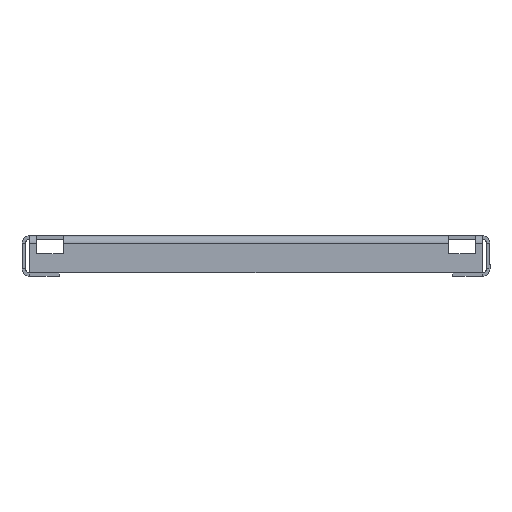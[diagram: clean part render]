
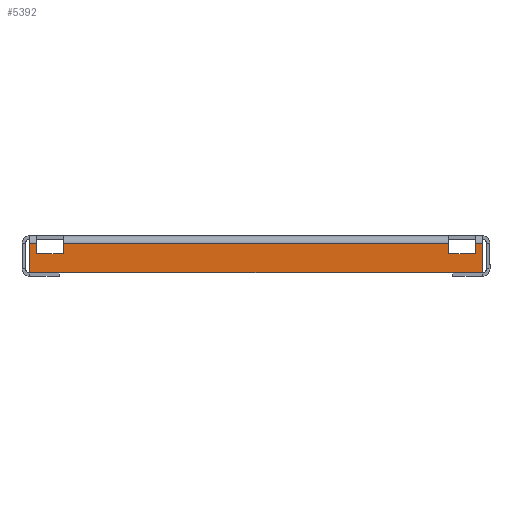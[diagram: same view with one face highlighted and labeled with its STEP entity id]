
A CAD part, front view. The second image highlights one B-rep face of the part: STEP entity #5392.
In plain terms, the highlighted planar face has unit normal (0, -1, 0) as drawn and (1, 0, 0) by its records, which use the part's own axes.
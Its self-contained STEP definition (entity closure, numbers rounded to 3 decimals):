
#67 = EDGE_CURVE ( 'NONE', #3493, #3189, #2432, .T. ) ;
#87 = LINE ( 'NONE', #4906, #5049 ) ;
#98 = LINE ( 'NONE', #4283, #5055 ) ;
#189 = CARTESIAN_POINT ( 'NONE',  ( 556.755, -157.685, -23.317 ) ) ;
#264 = EDGE_CURVE ( 'NONE', #2305, #3568, #87, .T. ) ;
#312 = CARTESIAN_POINT ( 'NONE',  ( 556.755, 134.317, 2.464 ) ) ;
#319 = EDGE_CURVE ( 'NONE', #4222, #2305, #2352, .T. ) ;
#336 = EDGE_CURVE ( 'NONE', #4490, #3189, #3476, .T. ) ;
#339 = ORIENTED_EDGE ( 'NONE', *, *, #264, .F. ) ;
#356 = EDGE_CURVE ( 'NONE', #4728, #3493, #5706, .T. ) ;
#495 = CARTESIAN_POINT ( 'NONE',  ( 556.755, 134.317, -10.236 ) ) ;
#673 = DIRECTION ( 'NONE',  ( 0., 0., 1. ) ) ;
#674 = ORIENTED_EDGE ( 'NONE', *, *, #336, .F. ) ;
#692 = DIRECTION ( 'NONE',  ( 0., 1., 0. ) ) ;
#827 = CARTESIAN_POINT ( 'NONE',  ( 556.755, -157.685, 0. ) ) ;
#853 = ORIENTED_EDGE ( 'NONE', *, *, #356, .T. ) ;
#920 = EDGE_CURVE ( 'NONE', #3617, #5789, #2021, .T. ) ;
#973 = AXIS2_PLACEMENT_3D ( 'NONE', #4707, #5159, #2311 ) ;
#1020 = CARTESIAN_POINT ( 'NONE',  ( 556.755, 157.685, -2.794 ) ) ;
#1242 = VECTOR ( 'NONE', #1649, 1000. ) ;
#1246 = EDGE_CURVE ( 'NONE', #5491, #5176, #3538, .T. ) ;
#1277 = ORIENTED_EDGE ( 'NONE', *, *, #4502, .T. ) ;
#1329 = ORIENTED_EDGE ( 'NONE', *, *, #319, .F. ) ;
#1366 = PLANE ( 'NONE',  #973 ) ;
#1412 = ORIENTED_EDGE ( 'NONE', *, *, #920, .F. ) ;
#1523 = VECTOR ( 'NONE', #4149, 1000. ) ;
#1545 = VECTOR ( 'NONE', #3080, 1000. ) ;
#1649 = DIRECTION ( 'NONE',  ( 0., 1., 0. ) ) ;
#1731 = DIRECTION ( 'NONE',  ( 0., 0., 1. ) ) ;
#1953 = DIRECTION ( 'NONE',  ( 0., 0., -1. ) ) ;
#2021 = LINE ( 'NONE', #5962, #4106 ) ;
#2096 = CARTESIAN_POINT ( 'NONE',  ( 556.755, -152.605, -10.236 ) ) ;
#2135 = FACE_OUTER_BOUND ( 'NONE', #5525, .T. ) ;
#2305 = VERTEX_POINT ( 'NONE', #4848 ) ;
#2311 = DIRECTION ( 'NONE',  ( 0., -1., 0. ) ) ;
#2352 = LINE ( 'NONE', #4000, #4753 ) ;
#2432 = LINE ( 'NONE', #4595, #2591 ) ;
#2457 = ORIENTED_EDGE ( 'NONE', *, *, #3470, .F. ) ;
#2591 = VECTOR ( 'NONE', #1731, 1000. ) ;
#2651 = LINE ( 'NONE', #4980, #1242 ) ;
#2732 = DIRECTION ( 'NONE',  ( 0., 0., -1. ) ) ;
#2835 = VERTEX_POINT ( 'NONE', #3011 ) ;
#3011 = CARTESIAN_POINT ( 'NONE',  ( 556.755, -157.685, -2.794 ) ) ;
#3080 = DIRECTION ( 'NONE',  ( 0., 1., 0. ) ) ;
#3123 = EDGE_CURVE ( 'NONE', #5176, #4490, #98, .T. ) ;
#3189 = VERTEX_POINT ( 'NONE', #1020 ) ;
#3278 = DIRECTION ( 'NONE',  ( 0., 1., 0. ) ) ;
#3470 = EDGE_CURVE ( 'NONE', #2835, #3617, #2651, .T. ) ;
#3476 = LINE ( 'NONE', #5920, #5860 ) ;
#3493 = VERTEX_POINT ( 'NONE', #5000 ) ;
#3538 = LINE ( 'NONE', #6122, #6072 ) ;
#3568 = VERTEX_POINT ( 'NONE', #6023 ) ;
#3617 = VERTEX_POINT ( 'NONE', #3670 ) ;
#3670 = CARTESIAN_POINT ( 'NONE',  ( 556.755, -152.605, -2.794 ) ) ;
#3764 = VECTOR ( 'NONE', #2732, 1000. ) ;
#3860 = ORIENTED_EDGE ( 'NONE', *, *, #4992, .F. ) ;
#3981 = ORIENTED_EDGE ( 'NONE', *, *, #3123, .F. ) ;
#4000 = CARTESIAN_POINT ( 'NONE',  ( 556.755, -134.317, 2.464 ) ) ;
#4085 = EDGE_CURVE ( 'NONE', #3568, #5491, #5172, .T. ) ;
#4106 = VECTOR ( 'NONE', #1953, 1000. ) ;
#4149 = DIRECTION ( 'NONE',  ( 0., 0., -1. ) ) ;
#4168 = ORIENTED_EDGE ( 'NONE', *, *, #67, .T. ) ;
#4184 = CARTESIAN_POINT ( 'NONE',  ( 556.755, 152.605, -10.236 ) ) ;
#4222 = VERTEX_POINT ( 'NONE', #5332 ) ;
#4283 = CARTESIAN_POINT ( 'NONE',  ( 556.755, 152.605, 2.464 ) ) ;
#4451 = VECTOR ( 'NONE', #4511, 1000. ) ;
#4490 = VERTEX_POINT ( 'NONE', #4693 ) ;
#4501 = CARTESIAN_POINT ( 'NONE',  ( 556.755, -134.317, -10.236 ) ) ;
#4502 = EDGE_CURVE ( 'NONE', #2835, #4728, #5165, .T. ) ;
#4511 = DIRECTION ( 'NONE',  ( 0., 1., 0. ) ) ;
#4595 = CARTESIAN_POINT ( 'NONE',  ( 556.755, 157.685, 0. ) ) ;
#4693 = CARTESIAN_POINT ( 'NONE',  ( 556.755, 152.605, -2.794 ) ) ;
#4707 = CARTESIAN_POINT ( 'NONE',  ( 556.755, -157.685, 0. ) ) ;
#4728 = VERTEX_POINT ( 'NONE', #5234 ) ;
#4753 = VECTOR ( 'NONE', #673, 1000. ) ;
#4848 = CARTESIAN_POINT ( 'NONE',  ( 556.755, -134.317, -2.794 ) ) ;
#4906 = CARTESIAN_POINT ( 'NONE',  ( 556.755, 157.685, -2.794 ) ) ;
#4931 = ORIENTED_EDGE ( 'NONE', *, *, #1246, .F. ) ;
#4980 = CARTESIAN_POINT ( 'NONE',  ( 556.755, 157.685, -2.794 ) ) ;
#4992 = EDGE_CURVE ( 'NONE', #5789, #4222, #5333, .T. ) ;
#5000 = CARTESIAN_POINT ( 'NONE',  ( 556.755, 157.685, -23.317 ) ) ;
#5049 = VECTOR ( 'NONE', #5854, 1000. ) ;
#5055 = VECTOR ( 'NONE', #6183, 1000. ) ;
#5159 = DIRECTION ( 'NONE',  ( -1., 0., 0. ) ) ;
#5165 = LINE ( 'NONE', #827, #1523 ) ;
#5172 = LINE ( 'NONE', #312, #3764 ) ;
#5176 = VERTEX_POINT ( 'NONE', #4184 ) ;
#5234 = CARTESIAN_POINT ( 'NONE',  ( 556.755, -157.685, -23.317 ) ) ;
#5332 = CARTESIAN_POINT ( 'NONE',  ( 556.755, -134.317, -10.236 ) ) ;
#5333 = LINE ( 'NONE', #4501, #1545 ) ;
#5392 = ADVANCED_FACE ( 'NONE', ( #2135 ), #1366, .F. ) ;
#5467 = ORIENTED_EDGE ( 'NONE', *, *, #4085, .F. ) ;
#5491 = VERTEX_POINT ( 'NONE', #495 ) ;
#5525 = EDGE_LOOP ( 'NONE', ( #4931, #5467, #339, #1329, #3860, #1412, #2457, #1277, #853, #4168, #674, #3981 ) ) ;
#5706 = LINE ( 'NONE', #189, #4451 ) ;
#5789 = VERTEX_POINT ( 'NONE', #2096 ) ;
#5854 = DIRECTION ( 'NONE',  ( 0., 1., 0. ) ) ;
#5860 = VECTOR ( 'NONE', #692, 1000. ) ;
#5920 = CARTESIAN_POINT ( 'NONE',  ( 556.755, 157.685, -2.794 ) ) ;
#5962 = CARTESIAN_POINT ( 'NONE',  ( 556.755, -152.605, 2.464 ) ) ;
#6023 = CARTESIAN_POINT ( 'NONE',  ( 556.755, 134.317, -2.794 ) ) ;
#6072 = VECTOR ( 'NONE', #3278, 1000. ) ;
#6122 = CARTESIAN_POINT ( 'NONE',  ( 556.755, 134.317, -10.236 ) ) ;
#6183 = DIRECTION ( 'NONE',  ( 0., 0., 1. ) ) ;
